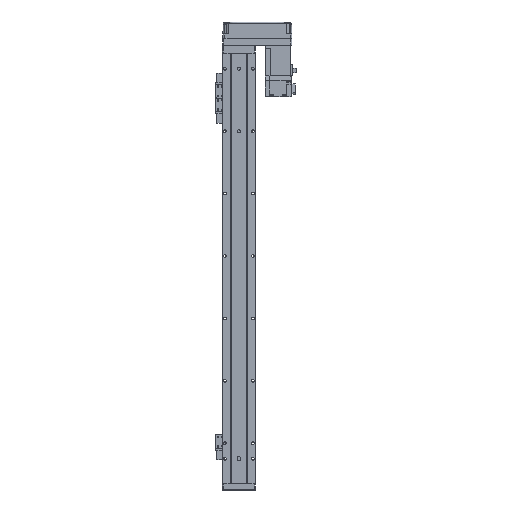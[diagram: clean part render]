
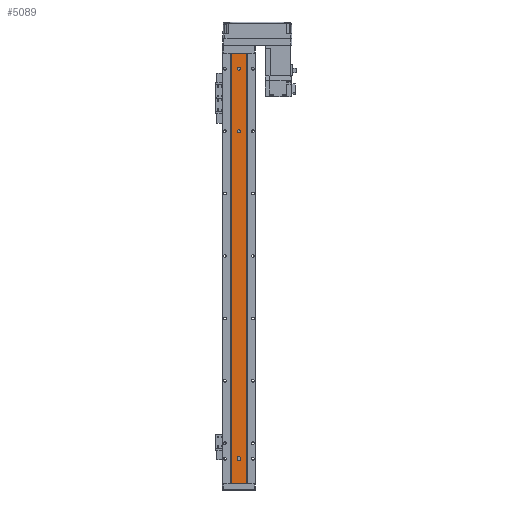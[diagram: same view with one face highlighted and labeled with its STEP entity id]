
A CAD part, front view. The second image highlights one B-rep face of the part: STEP entity #5089.
In plain terms, the highlighted planar face has unit normal (0, -1, 0).
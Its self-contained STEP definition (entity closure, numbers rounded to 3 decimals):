
#304 = ORIENTED_EDGE ( 'NONE', *, *, #11854, .F. ) ;
#930 = EDGE_CURVE ( 'NONE', #20067, #34829, #28794, .T. ) ;
#2163 = AXIS2_PLACEMENT_3D ( 'NONE', #25543, #28215, #30559 ) ;
#4757 = ORIENTED_EDGE ( 'NONE', *, *, #23659, .F. ) ;
#4978 = CIRCLE ( 'NONE', #2163, 2.5 ) ;
#5089 = ADVANCED_FACE ( 'NONE', ( #27408, #36611, #19589, #11765 ), #19122, .T. ) ;
#5198 = DIRECTION ( 'NONE',  ( 0., -1., 0. ) ) ;
#5239 = CARTESIAN_POINT ( 'NONE',  ( 0., 1.5, -25. ) ) ;
#5716 = CARTESIAN_POINT ( 'NONE',  ( 0., 1.5, -125. ) ) ;
#5891 = DIRECTION ( 'NONE',  ( 0., -1., 0. ) ) ;
#6197 = DIRECTION ( 'NONE',  ( 0., -1., 0. ) ) ;
#6506 = CARTESIAN_POINT ( 'NONE',  ( -2.5, 1.5, -125. ) ) ;
#6787 = LINE ( 'NONE', #31932, #20602 ) ;
#6889 = DIRECTION ( 'NONE',  ( 1., 0., 0. ) ) ;
#6980 = CIRCLE ( 'NONE', #7535, 2.5 ) ;
#7036 = LINE ( 'NONE', #29674, #36001 ) ;
#7535 = AXIS2_PLACEMENT_3D ( 'NONE', #27809, #21558, #6889 ) ;
#8393 = ORIENTED_EDGE ( 'NONE', *, *, #12024, .T. ) ;
#8652 = EDGE_CURVE ( 'NONE', #36491, #30250, #21238, .T. ) ;
#8759 = VERTEX_POINT ( 'NONE', #30041 ) ;
#9599 = ORIENTED_EDGE ( 'NONE', *, *, #16378, .F. ) ;
#10610 = ORIENTED_EDGE ( 'NONE', *, *, #24994, .F. ) ;
#11372 = DIRECTION ( 'NONE',  ( 1., 0., 0. ) ) ;
#11507 = DIRECTION ( 'NONE',  ( 1., 0., 0. ) ) ;
#11667 = VERTEX_POINT ( 'NONE', #26191 ) ;
#11687 = AXIS2_PLACEMENT_3D ( 'NONE', #35633, #6197, #14943 ) ;
#11757 = ORIENTED_EDGE ( 'NONE', *, *, #24310, .F. ) ;
#11765 = FACE_OUTER_BOUND ( 'NONE', #36404, .T. ) ;
#11854 = EDGE_CURVE ( 'NONE', #31155, #17119, #6980, .T. ) ;
#12024 = EDGE_CURVE ( 'NONE', #8759, #30250, #18877, .T. ) ;
#12034 = DIRECTION ( 'NONE',  ( 0., 0., -1. ) ) ;
#14678 = DIRECTION ( 'NONE',  ( 0., 0., 1. ) ) ;
#14830 = DIRECTION ( 'NONE',  ( 0., 0., 1. ) ) ;
#14855 = CARTESIAN_POINT ( 'NONE',  ( 2.5, 1.5, -25. ) ) ;
#14943 = DIRECTION ( 'NONE',  ( 1., 0., 0. ) ) ;
#15265 = CARTESIAN_POINT ( 'NONE',  ( 12.293, 1.5, 0. ) ) ;
#15389 = DIRECTION ( 'NONE',  ( 1., 0., 0. ) ) ;
#16246 = EDGE_LOOP ( 'NONE', ( #11757, #18682 ) ) ;
#16378 = EDGE_CURVE ( 'NONE', #33772, #11667, #4978, .T. ) ;
#16801 = LINE ( 'NONE', #31434, #28295 ) ;
#17119 = VERTEX_POINT ( 'NONE', #37472 ) ;
#17120 = EDGE_CURVE ( 'NONE', #33021, #8759, #16801, .T. ) ;
#17144 = DIRECTION ( 'NONE',  ( 1., 0., 0. ) ) ;
#17314 = CARTESIAN_POINT ( 'NONE',  ( -2.5, 1.5, -649. ) ) ;
#17693 = CARTESIAN_POINT ( 'NONE',  ( -12.293, 1.5, 0. ) ) ;
#18190 = ORIENTED_EDGE ( 'NONE', *, *, #8652, .F. ) ;
#18682 = ORIENTED_EDGE ( 'NONE', *, *, #930, .F. ) ;
#18877 = LINE ( 'NONE', #37994, #26295 ) ;
#19122 = PLANE ( 'NONE',  #29153 ) ;
#19589 = FACE_BOUND ( 'NONE', #16246, .T. ) ;
#20067 = VERTEX_POINT ( 'NONE', #36794 ) ;
#20390 = VERTEX_POINT ( 'NONE', #25983 ) ;
#20602 = VECTOR ( 'NONE', #14678, 1000. ) ;
#20757 = DIRECTION ( 'NONE',  ( 0., 0., 1. ) ) ;
#20974 = VERTEX_POINT ( 'NONE', #17314 ) ;
#21238 = LINE ( 'NONE', #15265, #23513 ) ;
#21558 = DIRECTION ( 'NONE',  ( 0., -1., 0. ) ) ;
#22355 = CARTESIAN_POINT ( 'NONE',  ( 12.293, 1.5, -690. ) ) ;
#22462 = EDGE_CURVE ( 'NONE', #20390, #20974, #28258, .T. ) ;
#23014 = AXIS2_PLACEMENT_3D ( 'NONE', #5716, #5198, #29087 ) ;
#23130 = EDGE_LOOP ( 'NONE', ( #32646, #9599 ) ) ;
#23474 = CIRCLE ( 'NONE', #24640, 2.5 ) ;
#23513 = VECTOR ( 'NONE', #15389, 1000. ) ;
#23659 = EDGE_CURVE ( 'NONE', #20974, #31155, #7036, .T. ) ;
#24310 = EDGE_CURVE ( 'NONE', #34829, #20067, #23474, .T. ) ;
#24640 = AXIS2_PLACEMENT_3D ( 'NONE', #5239, #28611, #11372 ) ;
#24960 = ORIENTED_EDGE ( 'NONE', *, *, #34230, .F. ) ;
#24994 = EDGE_CURVE ( 'NONE', #17119, #20390, #6787, .T. ) ;
#25543 = CARTESIAN_POINT ( 'NONE',  ( 0., 1.5, -125. ) ) ;
#25570 = ORIENTED_EDGE ( 'NONE', *, *, #17120, .T. ) ;
#25983 = CARTESIAN_POINT ( 'NONE',  ( 2.5, 1.5, -649. ) ) ;
#26191 = CARTESIAN_POINT ( 'NONE',  ( 2.5, 1.5, -125. ) ) ;
#26295 = VECTOR ( 'NONE', #20757, 1000. ) ;
#26467 = EDGE_CURVE ( 'NONE', #11667, #33772, #29679, .T. ) ;
#26508 = CARTESIAN_POINT ( 'NONE',  ( -12.293, 1.5, -690. ) ) ;
#26693 = CARTESIAN_POINT ( 'NONE',  ( 0., 1.5, -649. ) ) ;
#27408 = FACE_BOUND ( 'NONE', #30730, .T. ) ;
#27809 = CARTESIAN_POINT ( 'NONE',  ( 0., 1.5, -651. ) ) ;
#28215 = DIRECTION ( 'NONE',  ( 0., -1., 0. ) ) ;
#28258 = CIRCLE ( 'NONE', #36870, 2.5 ) ;
#28295 = VECTOR ( 'NONE', #17144, 1000. ) ;
#28501 = LINE ( 'NONE', #29496, #33130 ) ;
#28611 = DIRECTION ( 'NONE',  ( 0., -1., 0. ) ) ;
#28794 = CIRCLE ( 'NONE', #11687, 2.5 ) ;
#28897 = CARTESIAN_POINT ( 'NONE',  ( 12.293, 1.5, 0. ) ) ;
#29087 = DIRECTION ( 'NONE',  ( 1., 0., 0. ) ) ;
#29153 = AXIS2_PLACEMENT_3D ( 'NONE', #22355, #36889, #37017 ) ;
#29496 = CARTESIAN_POINT ( 'NONE',  ( -12.293, 1.5, -690. ) ) ;
#29674 = CARTESIAN_POINT ( 'NONE',  ( -2.5, 1.5, -690. ) ) ;
#29679 = CIRCLE ( 'NONE', #23014, 2.5 ) ;
#30041 = CARTESIAN_POINT ( 'NONE',  ( 12.293, 1.5, -690. ) ) ;
#30250 = VERTEX_POINT ( 'NONE', #28897 ) ;
#30559 = DIRECTION ( 'NONE',  ( 1., 0., 0. ) ) ;
#30730 = EDGE_LOOP ( 'NONE', ( #304, #4757, #36888, #10610 ) ) ;
#31155 = VERTEX_POINT ( 'NONE', #34229 ) ;
#31434 = CARTESIAN_POINT ( 'NONE',  ( 12.293, 1.5, -690. ) ) ;
#31932 = CARTESIAN_POINT ( 'NONE',  ( 2.5, 1.5, -690. ) ) ;
#32646 = ORIENTED_EDGE ( 'NONE', *, *, #26467, .F. ) ;
#33021 = VERTEX_POINT ( 'NONE', #26508 ) ;
#33130 = VECTOR ( 'NONE', #14830, 1000. ) ;
#33772 = VERTEX_POINT ( 'NONE', #6506 ) ;
#34229 = CARTESIAN_POINT ( 'NONE',  ( -2.5, 1.5, -651. ) ) ;
#34230 = EDGE_CURVE ( 'NONE', #33021, #36491, #28501, .T. ) ;
#34829 = VERTEX_POINT ( 'NONE', #14855 ) ;
#35633 = CARTESIAN_POINT ( 'NONE',  ( 0., 1.5, -25. ) ) ;
#36001 = VECTOR ( 'NONE', #12034, 1000. ) ;
#36404 = EDGE_LOOP ( 'NONE', ( #18190, #24960, #25570, #8393 ) ) ;
#36491 = VERTEX_POINT ( 'NONE', #17693 ) ;
#36611 = FACE_BOUND ( 'NONE', #23130, .T. ) ;
#36794 = CARTESIAN_POINT ( 'NONE',  ( -2.5, 1.5, -25. ) ) ;
#36870 = AXIS2_PLACEMENT_3D ( 'NONE', #26693, #5891, #11507 ) ;
#36888 = ORIENTED_EDGE ( 'NONE', *, *, #22462, .F. ) ;
#36889 = DIRECTION ( 'NONE',  ( 0., -1., 0. ) ) ;
#37017 = DIRECTION ( 'NONE',  ( 1., 0., 0. ) ) ;
#37472 = CARTESIAN_POINT ( 'NONE',  ( 2.5, 1.5, -651. ) ) ;
#37994 = CARTESIAN_POINT ( 'NONE',  ( 12.293, 1.5, -690. ) ) ;
